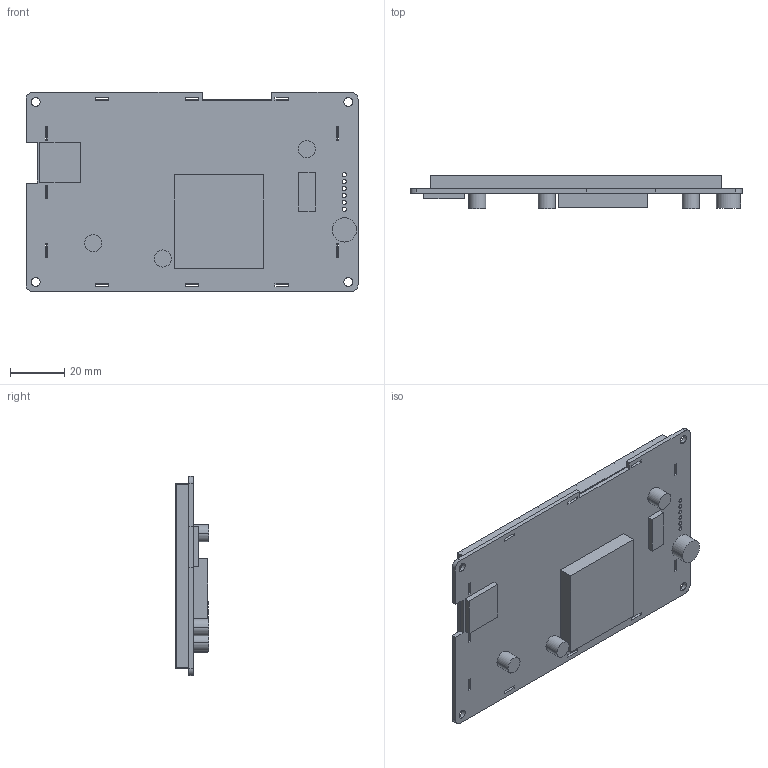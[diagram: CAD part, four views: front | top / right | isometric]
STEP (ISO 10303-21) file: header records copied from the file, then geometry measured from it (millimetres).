
FILE_DESCRIPTION((''),'2;1');
FILE_NAME('DMG48270C043-03WN','2022-09-06T',('Administrator'),(''),'PRO/ENGINEER BY PARAMETRIC TECHNOLOGY CORPORATION, 2011310','PRO/ENGINEER BY PARAMETRIC TECHNOLOGY CORPORATION, 2011310','');
FILE_SCHEMA(('CONFIG_CONTROL_DESIGN'));
Length unit declared in the file: millimetre
Products named in the file (1): DMG48270C043-03WN
Bounding box: 121.92 x 12.3 x 73.15 mm (x, y, z)
Volume: 42764 mm3; surface area: 38620.2 mm2
Topology: 1 solids, 2 shells, 147 faces, 408 edges, 264 vertices
Faces by surface type: plane 115, cylinder 32
Entity records: 4754 total; most frequent: CARTESIAN_POINT 819, ORIENTED_EDGE 816, DIRECTION 766, EDGE_CURVE 408, VECTOR 344, LINE 344, VERTEX_POINT 264, AXIS2_PLACEMENT_3D 211
